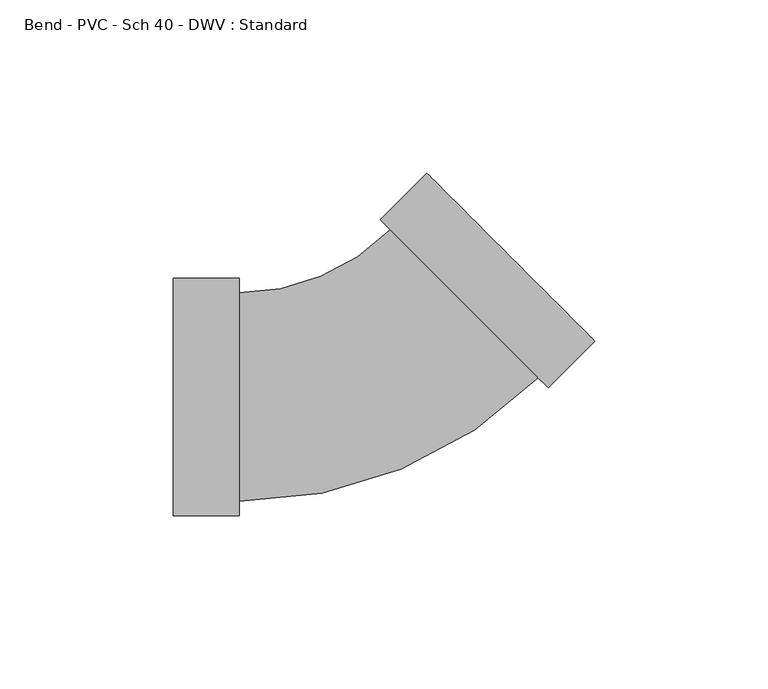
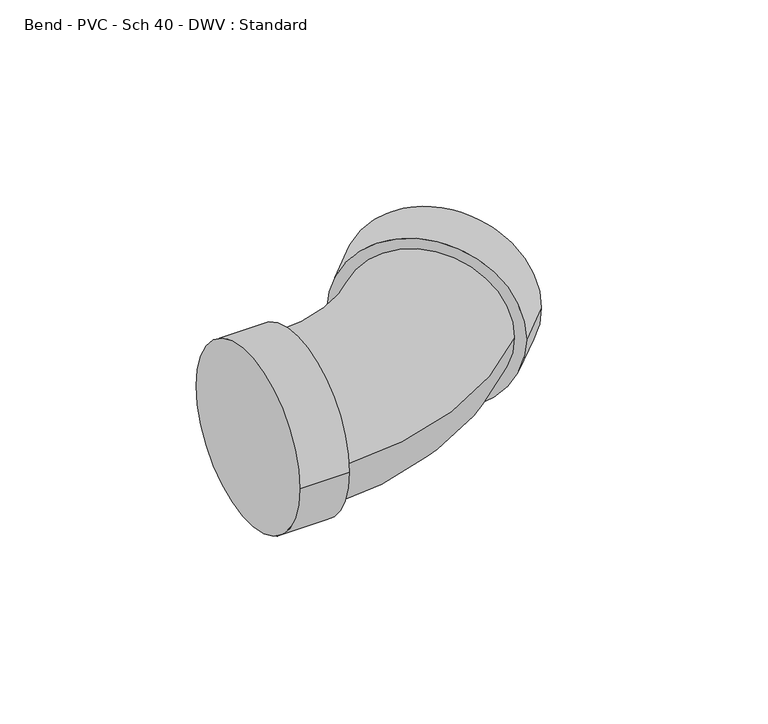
"""IFC4 building model written with IfcOpenShell, lengths in millimetres: pipe fitting geometry, Bend - PVC - Sch 40 - DWV : Standard."""

from ifc_helpers import new_model, si_unit, point, frame, origin, place, context, project, spatial, circle_curve, ellipse_curve, trimmed, source, transform, mapped, element, save
from ifc_brep_helpers import plane_surface, cylinder_surface, revolved_surface, advanced_brep


def bend_pvc_sch_40_dwv_standard_d9c3dac7(model_context):
    return source(origin(), model_context, "Body", "AdvancedBrep", [
        advanced_brep(
        [(-57.15, -34.3154, 0.0), (-57.15, 34.3154, 0.0), (-38.1, -34.3154, 0.0), (-38.1, 34.3154, 0.0), (-38.1, -30.1625, 0.0), (-38.1, 30.1625, 0.0), (5.6149041, 48.2686157, 0.0), (48.2691375, 5.610416, 0.0), (51.2055448, 2.6737358, 0.0), (2.6784969, 51.2052959, 0.0), (64.6765552, 16.1434937, 0.0), (16.1495073, 64.6750539, 0.0)],
        [
            (0, 1, circle_curve(frame((-57.15, 0.0, 0.0), z_axis=(-1.0, 0.0, 0.0), x_axis=(0.0, 1.0, 0.0)), 34.3154)),
            (1, 0, circle_curve(frame((-57.15, 0.0, 0.0), z_axis=(-1.0, 0.0, 0.0), x_axis=(0.0, 1.0, 0.0)), 34.3154)),
            (2, 3, circle_curve(frame((-38.1, 0.0, 0.0), z_axis=(1.0, 0.0, 0.0), x_axis=(0.0, 1.0, 0.0)), 34.3154)),
            (3, 2, circle_curve(frame((-38.1, 0.0, 0.0), z_axis=(1.0, 0.0, 0.0), x_axis=(0.0, 1.0, 0.0)), 34.3154)),
            (4, 5, circle_curve(frame((-38.1, 0.0, 0.0), z_axis=(-1.0, 0.0, 0.0), x_axis=(0.0, 1.0, 0.0)), 30.1625)),
            (5, 4, circle_curve(frame((-38.1, 0.0, 0.0), z_axis=(-1.0, 0.0, 0.0), x_axis=(0.0, 1.0, 0.0)), 30.1625)),
            (0, 2),
            (3, 1),
            (6, 5, circle_curve(frame((-38.1, 91.9875846, 0.0), z_axis=(0.0, 0.0, -1.0), x_axis=(0.0, -1.0, 0.0)), 61.8250846)),
            (4, 7, circle_curve(frame((-38.1, 91.9875846, 0.0), z_axis=(0.0, 0.0, 1.0), x_axis=(0.0, -1.0, 0.0)), 122.1500846)),
            (7, 6, circle_curve(frame((26.9420208, 26.9395158, 0.0), z_axis=(-0.7071396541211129, -0.7070739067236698, 0.0), x_axis=(-0.7070739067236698, 0.7071396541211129, 0.0)), 30.1625)),
            (6, 7, circle_curve(frame((26.9420208, 26.9395158, 0.0), z_axis=(-0.7071396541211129, -0.7070739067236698, 0.0), x_axis=(-0.7070739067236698, 0.7071396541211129, 0.0)), 30.1625)),
            (8, 9, circle_curve(frame((26.9420208, 26.9395158, 0.0), z_axis=(-0.7071396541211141, -0.7070739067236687, 0.0), x_axis=(-0.7070739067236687, 0.7071396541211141, 0.0)), 34.3154)),
            (9, 8, circle_curve(frame((26.9420208, 26.9395158, 0.0), z_axis=(-0.7071396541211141, -0.7070739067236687, 0.0), x_axis=(-0.7070739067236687, 0.7071396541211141, 0.0)), 34.3154)),
            (10, 11, circle_curve(frame((40.4130312, 40.4092738, 0.0), z_axis=(0.7071396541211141, 0.7070739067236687, 0.0), x_axis=(-0.7070739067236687, 0.7071396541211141, 0.0)), 34.3154)),
            (11, 10, circle_curve(frame((40.4130312, 40.4092738, 0.0), z_axis=(0.7071396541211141, 0.7070739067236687, 0.0), x_axis=(-0.7070739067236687, 0.7071396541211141, 0.0)), 34.3154)),
            (8, 10),
            (11, 9),
        ],
        [
            plane_surface(frame((-57.15, 0.0, 0.0), z_axis=(-1.0, 0.0, 0.0), x_axis=(0.0, 0.0, 1.0))),
            plane_surface(frame((-38.1, 0.0, 0.0), z_axis=(1.0, 0.0, 0.0), x_axis=(0.0, 0.0, 1.0))),
            cylinder_surface(frame((-57.15, 0.0, 0.0), z_axis=(-1.0, 0.0, 0.0), x_axis=(0.0, 1.0, 0.0)), 34.3154),
            revolved_surface(trimmed(ellipse_curve(frame((-38.1, 0.0, 0.0), z_axis=(-1.0, 0.0, 0.0), x_axis=(0.0, 1.0, 0.0)), 30.1625, 30.1625), [point((-38.1, -30.1625, 0.0))], [point((-38.1, 30.1625, 0.0))], True, "CARTESIAN"), (-38.1, 91.9875846, 0.0), (0.0, 0.0, 1.0)),
            revolved_surface(trimmed(ellipse_curve(frame((-38.1, 0.0, 0.0), z_axis=(-1.0, 0.0, 0.0), x_axis=(0.0, 1.0, 0.0)), 30.1625, 30.1625), [point((-38.1, 30.1625, 0.0))], [point((-38.1, -30.1625, 0.0))], True, "CARTESIAN"), (-38.1, 91.9875846, 0.0), (0.0, 0.0, 1.0)),
            plane_surface(frame((26.9420208, 26.9395158, 0.0), z_axis=(-0.7071396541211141, -0.7070739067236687, 0.0), x_axis=(0.0, 0.0, 1.0))),
            plane_surface(frame((40.4130312, 40.4092738, 0.0), z_axis=(0.7071396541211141, 0.7070739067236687, 0.0), x_axis=(0.0, 0.0, 1.0))),
            cylinder_surface(frame((26.9420208, 26.9395158, 0.0), z_axis=(-0.7071396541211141, -0.7070739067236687, 0.0), x_axis=(-0.7070739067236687, 0.7071396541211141, 0.0)), 34.3154),
        ],
        [
            (0, [[1, 2]]),
            (1, [[3, 4], [5, 6]]),
            (2, [[-1, 7, -4, 8]]),
            (2, [[-2, -8, -3, -7]]),
            (3, [[9, -5, 10, 11]]),
            (4, [[-9, 12, -10, -6]]),
            (5, [[13, 14], [-11, -12]]),
            (6, [[15, 16]]),
            (7, [[-13, 17, -16, 18]]),
            (7, [[-14, -18, -15, -17]]),
        ],
    ),
    ])


if __name__ == "__main__":
    model = new_model("IFC4")
    model_context = context("Model", 3, world=origin())
    ifc_project = project(units=[si_unit("LENGTHUNIT", "METRE", prefix="MILLI")], contexts=[model_context])
    site = spatial("IfcSite", under=ifc_project)
    building = spatial("IfcBuilding", under=site)
    placement = place(None, origin())
    bend_pvc_sch_40_dwv_standard_shape = bend_pvc_sch_40_dwv_standard_d9c3dac7(model_context)
    element("IfcPipeFitting", 1, ObjectType="Bend - PVC - Sch 40 - DWV : Standard", at=placement, inside=building, context=model_context, shape_type="MappedRepresentation", body=[
        mapped(bend_pvc_sch_40_dwv_standard_shape, transform((0.0, 0.0, 0.0), x_axis=(1.0, 0.0, 0.0), y_axis=(0.0, 1.0, 0.0), z_axis=(0.0, 0.0, 1.0))),
    ])
    save(model, "model.ifc")
